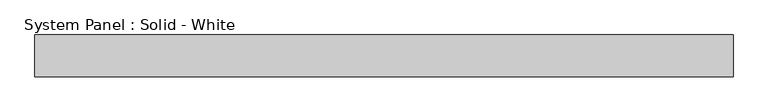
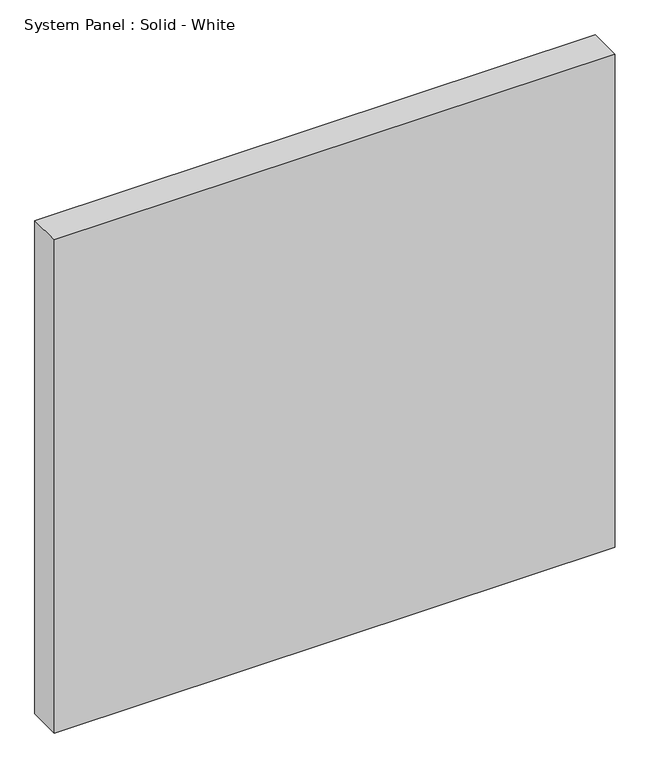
"""IFC4 building model written with IfcOpenShell, lengths in millimetres: plate geometry, System Panel : Solid - White."""

from ifc_helpers import new_model, si_unit, origin, origin_with_axes, place, context, project, spatial, polyline, outline, extrude, source, transform, mapped, element, save


def system_panel_solid_white_62dc0654(model_context):
    return source(origin(), model_context, "Body", "SweptSolid", [
        extrude(outline(polyline([(529.5446429, -19.05), (-529.5446429, -19.05), (-529.5446429, 44.45), (529.5446429, 44.45), (529.5446429, -19.05)])), origin_with_axes(), (0.0, 0.0, 1.0), 984.3895219),
    ])


if __name__ == "__main__":
    model = new_model("IFC4")
    model_context = context("Model", 3, world=origin())
    ifc_project = project(units=[si_unit("LENGTHUNIT", "METRE", prefix="MILLI")], contexts=[model_context])
    site = spatial("IfcSite", under=ifc_project)
    building = spatial("IfcBuilding", under=site)
    placement = place(None, origin())
    system_panel_solid_white_shape = system_panel_solid_white_62dc0654(model_context)
    element("IfcPlate", 1, ObjectType="System Panel : Solid - White", at=placement, inside=building, context=model_context, shape_type="MappedRepresentation", body=[
        mapped(system_panel_solid_white_shape, transform((0.0, 0.0, 0.0), x_axis=(1.0, 0.0, 0.0), y_axis=(0.0, 1.0, 0.0), z_axis=(0.0, 0.0, 1.0))),
    ])
    save(model, "model.ifc")
